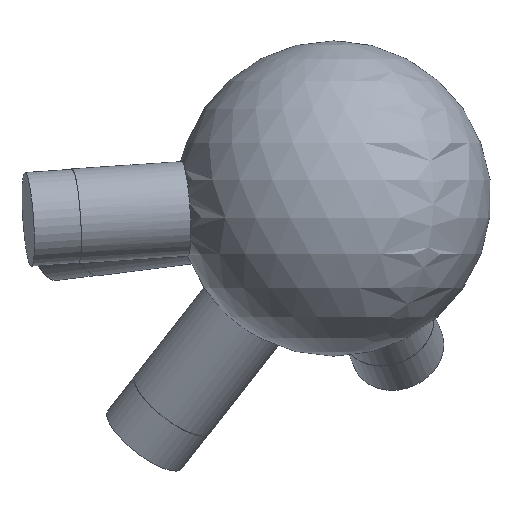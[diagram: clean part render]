
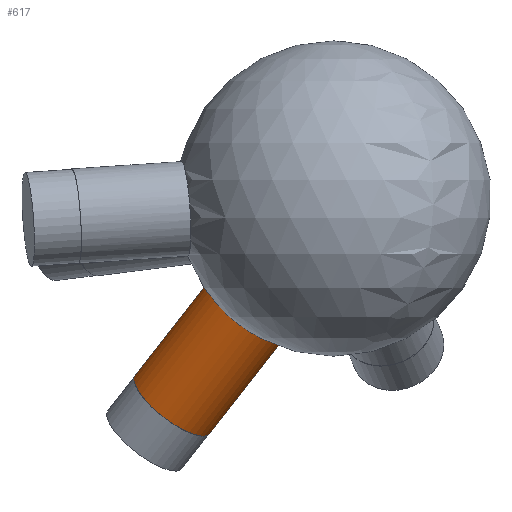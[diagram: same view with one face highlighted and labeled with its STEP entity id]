
A CAD part, left-side view. The second image highlights one B-rep face of the part: STEP entity #617.
In plain terms, the highlighted cylindrical face has radius 6 mm (diameter 12 mm), a full revolution.
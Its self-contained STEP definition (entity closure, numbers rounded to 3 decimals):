
#33 = SPHERICAL_SURFACE('',#34,20.);
#34 = AXIS2_PLACEMENT_3D('',#35,#36,#37);
#35 = CARTESIAN_POINT('',(0.,0.,0.));
#36 = DIRECTION('',(0.,0.,1.));
#37 = DIRECTION('',(1.,0.,-0.));
#214 = EDGE_CURVE('',#215,#215,#217,.T.);
#215 = VERTEX_POINT('',#216);
#216 = CARTESIAN_POINT('',(6.185,6.398,-17.911)
  );
#217 = SURFACE_CURVE('',#218,(#223,#299),.PCURVE_S1.);
#218 = CIRCLE('',#219,6.);
#219 = AXIS2_PLACEMENT_3D('',#220,#221,#222);
#220 = CARTESIAN_POINT('',(6.185,11.123,
    -14.214));
#221 = DIRECTION('',(0.324,0.583,-0.745));
#222 = DIRECTION('',(0.,0.788,0.616));
#223 = PCURVE('',#33,#224);
#224 = DEFINITIONAL_REPRESENTATION('',(#225),#298);
#225 = B_SPLINE_CURVE_WITH_KNOTS('',8,(#226,#227,#228,#229,#230,#231,
    #232,#233,#234,#235,#236,#237,#238,#239,#240,#241,#242,#243,#244,
    #245,#246,#247,#248,#249,#250,#251,#252,#253,#254,#255,#256,#257,
    #258,#259,#260,#261,#262,#263,#264,#265,#266,#267,#268,#269,#270,
    #271,#272,#273,#274,#275,#276,#277,#278,#279,#280,#281,#282,#283,
    #284,#285,#286,#287,#288,#289,#290,#291,#292,#293,#294,#295,#296,
    #297),.UNSPECIFIED.,.F.,.F.,(9,7,7,7,7,7,7,7,7,7,9),(3.142,
    3.534,3.902,4.248,4.895,
    5.461,6.452,7.938,8.682,
    9.053,9.425),.UNSPECIFIED.);
#226 = CARTESIAN_POINT('',(0.802,-1.11));
#227 = CARTESIAN_POINT('',(0.829,-1.118));
#228 = CARTESIAN_POINT('',(0.859,-1.126));
#229 = CARTESIAN_POINT('',(0.89,-1.132));
#230 = CARTESIAN_POINT('',(0.923,-1.137));
#231 = CARTESIAN_POINT('',(0.957,-1.141));
#232 = CARTESIAN_POINT('',(0.992,-1.144));
#233 = CARTESIAN_POINT('',(1.028,-1.145));
#234 = CARTESIAN_POINT('',(1.097,-1.145));
#235 = CARTESIAN_POINT('',(1.13,-1.144));
#236 = CARTESIAN_POINT('',(1.163,-1.142));
#237 = CARTESIAN_POINT('',(1.195,-1.138));
#238 = CARTESIAN_POINT('',(1.227,-1.134));
#239 = CARTESIAN_POINT('',(1.256,-1.128));
#240 = CARTESIAN_POINT('',(1.284,-1.121));
#241 = CARTESIAN_POINT('',(1.335,-1.107));
#242 = CARTESIAN_POINT('',(1.358,-1.099));
#243 = CARTESIAN_POINT('',(1.38,-1.09));
#244 = CARTESIAN_POINT('',(1.399,-1.081));
#245 = CARTESIAN_POINT('',(1.417,-1.071));
#246 = CARTESIAN_POINT('',(1.433,-1.061));
#247 = CARTESIAN_POINT('',(1.448,-1.05));
#248 = CARTESIAN_POINT('',(1.485,-1.018));
#249 = CARTESIAN_POINT('',(1.504,-0.996));
#250 = CARTESIAN_POINT('',(1.518,-0.973));
#251 = CARTESIAN_POINT('',(1.526,-0.949));
#252 = CARTESIAN_POINT('',(1.531,-0.925));
#253 = CARTESIAN_POINT('',(1.532,-0.9));
#254 = CARTESIAN_POINT('',(1.53,-0.876));
#255 = CARTESIAN_POINT('',(1.521,-0.831));
#256 = CARTESIAN_POINT('',(1.514,-0.81));
#257 = CARTESIAN_POINT('',(1.505,-0.789));
#258 = CARTESIAN_POINT('',(1.495,-0.769));
#259 = CARTESIAN_POINT('',(1.483,-0.75));
#260 = CARTESIAN_POINT('',(1.469,-0.731));
#261 = CARTESIAN_POINT('',(1.454,-0.713));
#262 = CARTESIAN_POINT('',(1.41,-0.665));
#263 = CARTESIAN_POINT('',(1.379,-0.638));
#264 = CARTESIAN_POINT('',(1.344,-0.613));
#265 = CARTESIAN_POINT('',(1.306,-0.591));
#266 = CARTESIAN_POINT('',(1.267,-0.573));
#267 = CARTESIAN_POINT('',(1.226,-0.559));
#268 = CARTESIAN_POINT('',(1.184,-0.548));
#269 = CARTESIAN_POINT('',(1.077,-0.532));
#270 = CARTESIAN_POINT('',(1.012,-0.531));
#271 = CARTESIAN_POINT('',(0.946,-0.54));
#272 = CARTESIAN_POINT('',(0.883,-0.558));
#273 = CARTESIAN_POINT('',(0.822,-0.585));
#274 = CARTESIAN_POINT('',(0.767,-0.62));
#275 = CARTESIAN_POINT('',(0.718,-0.661));
#276 = CARTESIAN_POINT('',(0.658,-0.731));
#277 = CARTESIAN_POINT('',(0.64,-0.755));
#278 = CARTESIAN_POINT('',(0.624,-0.781));
#279 = CARTESIAN_POINT('',(0.612,-0.808));
#280 = CARTESIAN_POINT('',(0.602,-0.835));
#281 = CARTESIAN_POINT('',(0.596,-0.863));
#282 = CARTESIAN_POINT('',(0.595,-0.891));
#283 = CARTESIAN_POINT('',(0.6,-0.933));
#284 = CARTESIAN_POINT('',(0.603,-0.947));
#285 = CARTESIAN_POINT('',(0.607,-0.96));
#286 = CARTESIAN_POINT('',(0.613,-0.974));
#287 = CARTESIAN_POINT('',(0.62,-0.987));
#288 = CARTESIAN_POINT('',(0.629,-1.001));
#289 = CARTESIAN_POINT('',(0.639,-1.013));
#290 = CARTESIAN_POINT('',(0.663,-1.038));
#291 = CARTESIAN_POINT('',(0.677,-1.05));
#292 = CARTESIAN_POINT('',(0.693,-1.062));
#293 = CARTESIAN_POINT('',(0.711,-1.073));
#294 = CARTESIAN_POINT('',(0.731,-1.083));
#295 = CARTESIAN_POINT('',(0.753,-1.093));
#296 = CARTESIAN_POINT('',(0.777,-1.102));
#297 = CARTESIAN_POINT('',(0.802,-1.11));
#298 = ( GEOMETRIC_REPRESENTATION_CONTEXT(2) 
PARAMETRIC_REPRESENTATION_CONTEXT() REPRESENTATION_CONTEXT('2D SPACE',''
  ) );
#299 = PCURVE('',#300,#305);
#300 = CYLINDRICAL_SURFACE('',#301,6.);
#301 = AXIS2_PLACEMENT_3D('',#302,#303,#304);
#302 = CARTESIAN_POINT('',(0.,0.,0.));
#303 = DIRECTION('',(0.324,0.583,-0.745));
#304 = DIRECTION('',(0.,-0.788,-0.616
    ));
#305 = DEFINITIONAL_REPRESENTATION('',(#306),#310);
#306 = LINE('',#307,#308);
#307 = CARTESIAN_POINT('',(-3.142,19.079));
#308 = VECTOR('',#309,1.);
#309 = DIRECTION('',(1.,0.));
#310 = ( GEOMETRIC_REPRESENTATION_CONTEXT(2) 
PARAMETRIC_REPRESENTATION_CONTEXT() REPRESENTATION_CONTEXT('2D SPACE',''
  ) );
#617 = ADVANCED_FACE('',(#618),#300,.T.);
#618 = FACE_BOUND('',#619,.T.);
#619 = EDGE_LOOP('',(#620,#643,#670,#671));
#620 = ORIENTED_EDGE('',*,*,#621,.T.);
#621 = EDGE_CURVE('',#215,#622,#624,.T.);
#622 = VERTEX_POINT('',#623);
#623 = CARTESIAN_POINT('',(11.378,15.737,
    -29.845));
#624 = SEAM_CURVE('',#625,(#629,#636),.PCURVE_S1.);
#625 = LINE('',#626,#627);
#626 = CARTESIAN_POINT('',(0.,-4.725,
    -3.698));
#627 = VECTOR('',#628,1.);
#628 = DIRECTION('',(0.324,0.583,-0.745));
#629 = PCURVE('',#300,#630);
#630 = DEFINITIONAL_REPRESENTATION('',(#631),#635);
#631 = LINE('',#632,#633);
#632 = CARTESIAN_POINT('',(6.283,-0.));
#633 = VECTOR('',#634,1.);
#634 = DIRECTION('',(0.,1.));
#635 = ( GEOMETRIC_REPRESENTATION_CONTEXT(2) 
PARAMETRIC_REPRESENTATION_CONTEXT() REPRESENTATION_CONTEXT('2D SPACE',''
  ) );
#636 = PCURVE('',#300,#637);
#637 = DEFINITIONAL_REPRESENTATION('',(#638),#642);
#638 = LINE('',#639,#640);
#639 = CARTESIAN_POINT('',(0.,-0.));
#640 = VECTOR('',#641,1.);
#641 = DIRECTION('',(0.,1.));
#642 = ( GEOMETRIC_REPRESENTATION_CONTEXT(2) 
PARAMETRIC_REPRESENTATION_CONTEXT() REPRESENTATION_CONTEXT('2D SPACE',''
  ) );
#643 = ORIENTED_EDGE('',*,*,#644,.F.);
#644 = EDGE_CURVE('',#622,#622,#645,.T.);
#645 = SURFACE_CURVE('',#646,(#651,#658),.PCURVE_S1.);
#646 = CIRCLE('',#647,6.);
#647 = AXIS2_PLACEMENT_3D('',#648,#649,#650);
#648 = CARTESIAN_POINT('',(11.378,20.462,
    -26.147));
#649 = DIRECTION('',(0.324,0.583,-0.745));
#650 = DIRECTION('',(0.,-0.788,-0.616
    ));
#651 = PCURVE('',#300,#652);
#652 = DEFINITIONAL_REPRESENTATION('',(#653),#657);
#653 = LINE('',#654,#655);
#654 = CARTESIAN_POINT('',(0.,35.097));
#655 = VECTOR('',#656,1.);
#656 = DIRECTION('',(1.,0.));
#657 = ( GEOMETRIC_REPRESENTATION_CONTEXT(2) 
PARAMETRIC_REPRESENTATION_CONTEXT() REPRESENTATION_CONTEXT('2D SPACE',''
  ) );
#658 = PCURVE('',#659,#664);
#659 = PLANE('',#660);
#660 = AXIS2_PLACEMENT_3D('',#661,#662,#663);
#661 = CARTESIAN_POINT('',(11.378,20.462,
    -26.147));
#662 = DIRECTION('',(0.324,0.583,-0.745));
#663 = DIRECTION('',(0.,-0.788,-0.616
    ));
#664 = DEFINITIONAL_REPRESENTATION('',(#665),#669);
#665 = CIRCLE('',#666,6.);
#666 = AXIS2_PLACEMENT_2D('',#667,#668);
#667 = CARTESIAN_POINT('',(0.,0.));
#668 = DIRECTION('',(1.,0.));
#669 = ( GEOMETRIC_REPRESENTATION_CONTEXT(2) 
PARAMETRIC_REPRESENTATION_CONTEXT() REPRESENTATION_CONTEXT('2D SPACE',''
  ) );
#670 = ORIENTED_EDGE('',*,*,#621,.F.);
#671 = ORIENTED_EDGE('',*,*,#214,.T.);
